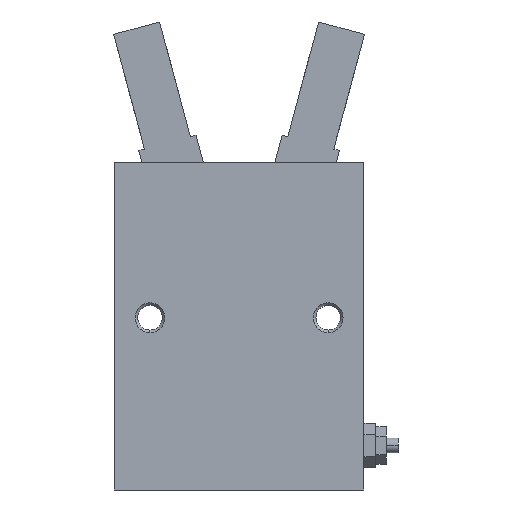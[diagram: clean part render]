
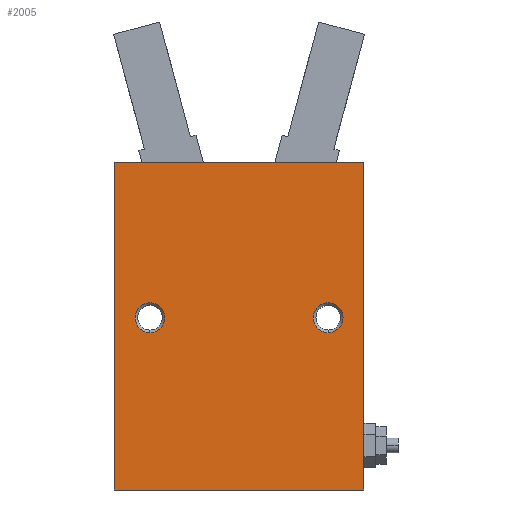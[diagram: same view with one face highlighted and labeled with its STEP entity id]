
A CAD part, front view. The second image highlights one B-rep face of the part: STEP entity #2005.
In plain terms, the highlighted planar face has unit normal (0, -1, 0).
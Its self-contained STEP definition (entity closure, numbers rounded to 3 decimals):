
#13 = DIRECTION ( 'NONE',  ( 0., 1., 0. ) ) ;
#57 = CIRCLE ( 'NONE', #4592, 2.5 ) ;
#101 = CARTESIAN_POINT ( 'NONE',  ( 0., -13.8, 0. ) ) ;
#185 = DIRECTION ( 'NONE',  ( -1., 0., 0. ) ) ;
#233 = CARTESIAN_POINT ( 'NONE',  ( -15., -13.8, 29. ) ) ;
#238 = LINE ( 'NONE', #1487, #3612 ) ;
#337 = ORIENTED_EDGE ( 'NONE', *, *, #483, .T. ) ;
#370 = EDGE_CURVE ( 'NONE', #547, #1070, #5354, .T. ) ;
#483 = EDGE_CURVE ( 'NONE', #2322, #2036, #2642, .T. ) ;
#547 = VERTEX_POINT ( 'NONE', #2339 ) ;
#626 = ORIENTED_EDGE ( 'NONE', *, *, #370, .T. ) ;
#645 = ORIENTED_EDGE ( 'NONE', *, *, #4995, .T. ) ;
#721 = ORIENTED_EDGE ( 'NONE', *, *, #1663, .T. ) ;
#726 = EDGE_LOOP ( 'NONE', ( #626, #721 ) ) ;
#740 = VERTEX_POINT ( 'NONE', #3424 ) ;
#747 = DIRECTION ( 'NONE',  ( 0., 0., -1. ) ) ;
#817 = CARTESIAN_POINT ( 'NONE',  ( 21., -13.8, 55.2 ) ) ;
#836 = CARTESIAN_POINT ( 'NONE',  ( -21., -13.8, 55.2 ) ) ;
#916 = EDGE_LOOP ( 'NONE', ( #2793, #4223, #4458, #3287 ) ) ;
#995 = LINE ( 'NONE', #101, #2233 ) ;
#1013 = DIRECTION ( 'NONE',  ( 0., 1., 0. ) ) ;
#1049 = VERTEX_POINT ( 'NONE', #5894 ) ;
#1070 = VERTEX_POINT ( 'NONE', #3468 ) ;
#1240 = EDGE_CURVE ( 'NONE', #740, #1049, #995, .T. ) ;
#1379 = AXIS2_PLACEMENT_3D ( 'NONE', #5310, #2385, #3133 ) ;
#1382 = LINE ( 'NONE', #5404, #4917 ) ;
#1487 = CARTESIAN_POINT ( 'NONE',  ( -21., -13.8, 0. ) ) ;
#1570 = DIRECTION ( 'NONE',  ( 0., 1., 0. ) ) ;
#1663 = EDGE_CURVE ( 'NONE', #1070, #547, #2664, .T. ) ;
#1743 = CARTESIAN_POINT ( 'NONE',  ( -21., -13.8, 0. ) ) ;
#1747 = DIRECTION ( 'NONE',  ( -1., 0., 0. ) ) ;
#1823 = DIRECTION ( 'NONE',  ( 0., 0., -1. ) ) ;
#2005 = ADVANCED_FACE ( 'NONE', ( #3366, #5808, #2290 ), #2129, .T. ) ;
#2017 = CARTESIAN_POINT ( 'NONE',  ( 21., -13.8, 0. ) ) ;
#2036 = VERTEX_POINT ( 'NONE', #2554 ) ;
#2129 = PLANE ( 'NONE',  #5523 ) ;
#2233 = VECTOR ( 'NONE', #185, 1000. ) ;
#2288 = VECTOR ( 'NONE', #2485, 1000. ) ;
#2290 = FACE_OUTER_BOUND ( 'NONE', #916, .T. ) ;
#2322 = VERTEX_POINT ( 'NONE', #2747 ) ;
#2339 = CARTESIAN_POINT ( 'NONE',  ( 15., -13.8, 26.5 ) ) ;
#2385 = DIRECTION ( 'NONE',  ( 0., 1., 0. ) ) ;
#2468 = EDGE_CURVE ( 'NONE', #740, #3875, #5801, .T. ) ;
#2485 = DIRECTION ( 'NONE',  ( 0., 0., 1. ) ) ;
#2554 = CARTESIAN_POINT ( 'NONE',  ( -15., -13.8, 31.5 ) ) ;
#2642 = CIRCLE ( 'NONE', #3617, 2.5 ) ;
#2664 = CIRCLE ( 'NONE', #5645, 2.5 ) ;
#2747 = CARTESIAN_POINT ( 'NONE',  ( -15., -13.8, 26.5 ) ) ;
#2793 = ORIENTED_EDGE ( 'NONE', *, *, #1240, .F. ) ;
#3133 = DIRECTION ( 'NONE',  ( 0., 0., -1. ) ) ;
#3287 = ORIENTED_EDGE ( 'NONE', *, *, #4177, .F. ) ;
#3366 = FACE_BOUND ( 'NONE', #4418, .T. ) ;
#3408 = VERTEX_POINT ( 'NONE', #836 ) ;
#3424 = CARTESIAN_POINT ( 'NONE',  ( 21., -13.8, 0. ) ) ;
#3468 = CARTESIAN_POINT ( 'NONE',  ( 15., -13.8, 31.5 ) ) ;
#3612 = VECTOR ( 'NONE', #5609, 1000. ) ;
#3617 = AXIS2_PLACEMENT_3D ( 'NONE', #233, #13, #1823 ) ;
#3714 = CARTESIAN_POINT ( 'NONE',  ( 15., -13.8, 29. ) ) ;
#3875 = VERTEX_POINT ( 'NONE', #817 ) ;
#3883 = EDGE_CURVE ( 'NONE', #3875, #3408, #1382, .T. ) ;
#4177 = EDGE_CURVE ( 'NONE', #1049, #3408, #238, .T. ) ;
#4223 = ORIENTED_EDGE ( 'NONE', *, *, #2468, .T. ) ;
#4314 = CARTESIAN_POINT ( 'NONE',  ( -15., -13.8, 29. ) ) ;
#4418 = EDGE_LOOP ( 'NONE', ( #337, #645 ) ) ;
#4458 = ORIENTED_EDGE ( 'NONE', *, *, #3883, .T. ) ;
#4592 = AXIS2_PLACEMENT_3D ( 'NONE', #4314, #1570, #4773 ) ;
#4773 = DIRECTION ( 'NONE',  ( 0., 0., -1. ) ) ;
#4784 = DIRECTION ( 'NONE',  ( 1., 0., 0. ) ) ;
#4887 = DIRECTION ( 'NONE',  ( 0., -1., 0. ) ) ;
#4917 = VECTOR ( 'NONE', #1747, 1000. ) ;
#4995 = EDGE_CURVE ( 'NONE', #2036, #2322, #57, .T. ) ;
#5310 = CARTESIAN_POINT ( 'NONE',  ( 15., -13.8, 29. ) ) ;
#5354 = CIRCLE ( 'NONE', #1379, 2.5 ) ;
#5404 = CARTESIAN_POINT ( 'NONE',  ( 0., -13.8, 55.2 ) ) ;
#5523 = AXIS2_PLACEMENT_3D ( 'NONE', #1743, #4887, #4784 ) ;
#5609 = DIRECTION ( 'NONE',  ( 0., 0., 1. ) ) ;
#5645 = AXIS2_PLACEMENT_3D ( 'NONE', #3714, #1013, #747 ) ;
#5801 = LINE ( 'NONE', #2017, #2288 ) ;
#5808 = FACE_BOUND ( 'NONE', #726, .T. ) ;
#5894 = CARTESIAN_POINT ( 'NONE',  ( -21., -13.8, 0. ) ) ;
